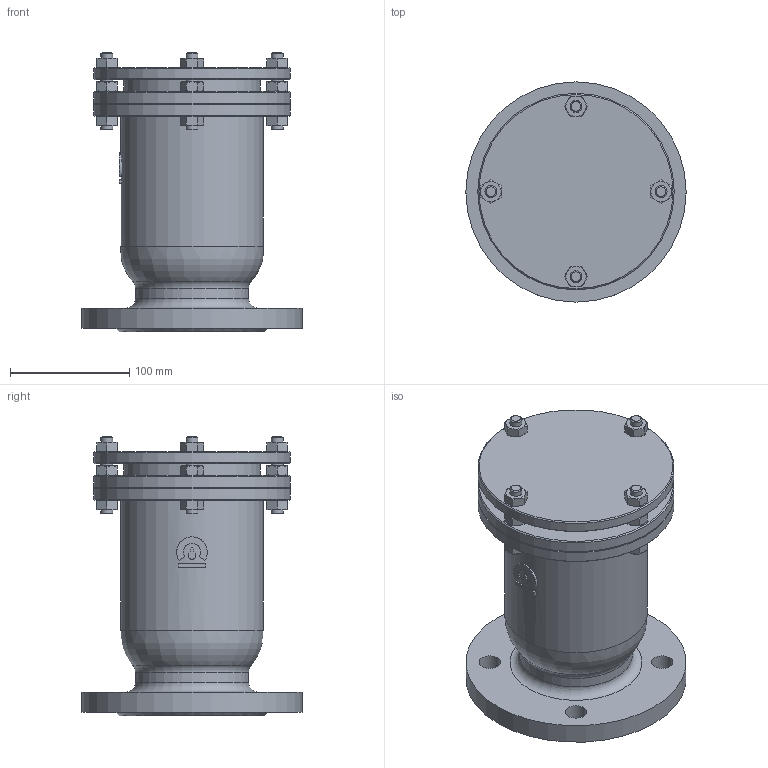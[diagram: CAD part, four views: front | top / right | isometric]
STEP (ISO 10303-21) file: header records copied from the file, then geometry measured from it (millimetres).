
FILE_DESCRIPTION(('STEP AP203'), '1');
FILE_NAME('Òèï A10F - Âîçäóõîîòâîä÷èê îäíîêàìåðíûé DN65', '', ('UNSPECIFIED'), ('UNSPECIFIED'), 'ASCON STEP Converter 1.6', 'ASCON Math Kernel', '');
FILE_SCHEMA(('CONFIG_CONTROL_DESIGN'));
Length unit declared in the file: millimetre
Products named in the file (1): Тип A10F
Bounding box: 185 x 185 x 235 mm (x, y, z)
Volume: 2406437.9 mm3; surface area: 231804.7 mm2
Topology: 1 solids, 1 shells, 300 faces, 657 edges, 386 vertices
Faces by surface type: cone 153, plane 112, cylinder 32, torus 3
Full cylindrical faces by diameter (mm): 10 x12, 18 x4, 65 x1, 95 x1, 115 x1, 120 x1, 163 x1, 165 x3, 185 x1
Entity records: 17112 total; most frequent: CARTESIAN_POINT 8679, ORIENTED_EDGE 1240, DIRECTION 1145, EDGE_CURVE 620, AXIS2_PLACEMENT_3D 525, VERTEX_POINT 386, EDGE_LOOP 380, FACE_BOUND 311
